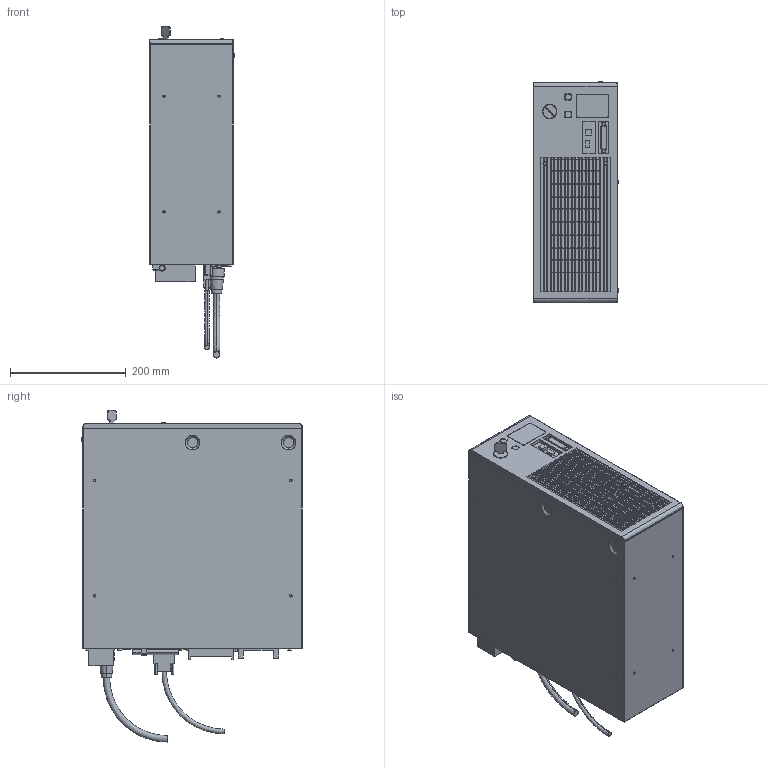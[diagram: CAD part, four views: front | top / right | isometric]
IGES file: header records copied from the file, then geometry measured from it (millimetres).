
Start section: SolidWorks IGES file using analytic representation for surfaces
Global section: file name: C:\catalog\lp-zv20xpc_zv50xpc.IGS; native system: SolidWorks 2019; preprocessor: SolidWorks 2019; author: 4056949; date: 230602.174129; units: millimetre
Bounding box: 147 x 382 x 574.5 mm (x, y, z)
Surface area: 605319.3 mm2 (no closed solid volume)
Topology: 0 solids, 0 shells, 1250 faces, 15245 edges, 15237 vertices
Faces by surface type: bspline 911, revolution 339
